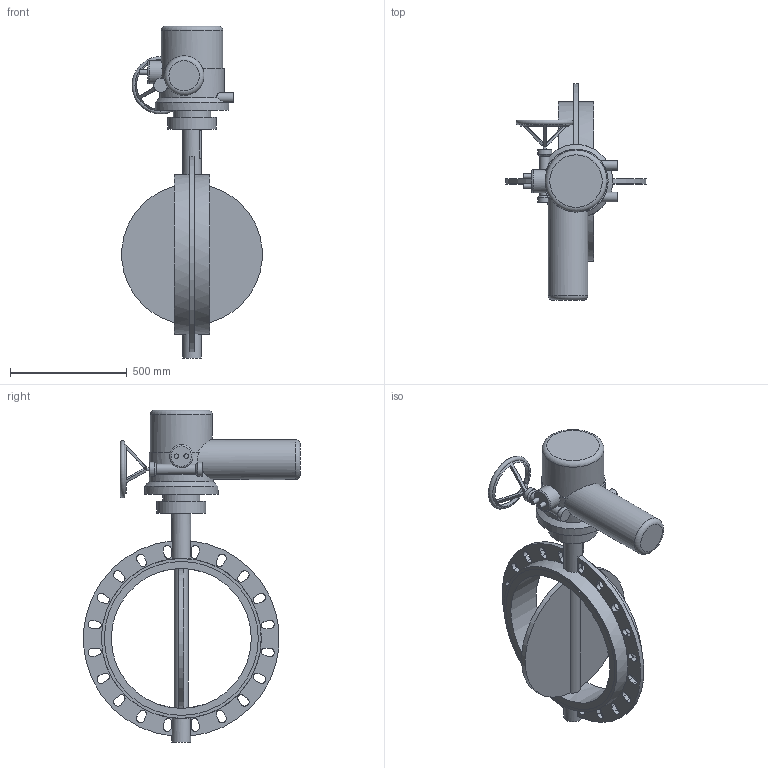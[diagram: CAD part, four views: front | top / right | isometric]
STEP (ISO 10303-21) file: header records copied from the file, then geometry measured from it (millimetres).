
FILE_DESCRIPTION(('STEP AP203'), '1');
FILE_NAME('青蜮铕 017WDN600+菹 QT400-0,5', '', ('UNSPECIFIED'), ('UNSPECIFIED'), 'ASCON STEP Converter 1.6', 'ASCON Math Kernel', '');
FILE_SCHEMA(('CONFIG_CONTROL_DESIGN'));
Length unit declared in the file: millimetre
Bounding box: 600.76 x 928.41 x 1423 mm (x, y, z)
Volume: 58408589.3 mm3; surface area: 2694455.4 mm2
Topology: 1 solids, 1 shells, 783 faces, 2242 edges, 1489 vertices
Faces by surface type: cylinder 547, plane 226, cone 6, torus 4
Full cylindrical faces by diameter (mm): 14 x1, 20 x2, 22 x4, 42 x2, 44 x1, 60 x1, 80 x2, 100 x1, 160 x1, 170 x1, 210 x1, 265 x1, 275 x1, 315 x1, 600 x1, 660 x2, 685 x2
Entity records: 35070 total; most frequent: CARTESIAN_POINT 7336, DIRECTION 4825, ORIENTED_EDGE 4418, EDGE_CURVE 2209, AXIS2_PLACEMENT_3D 1898, VERTEX_POINT 1489, CIRCLE 1114, LINE 1029
